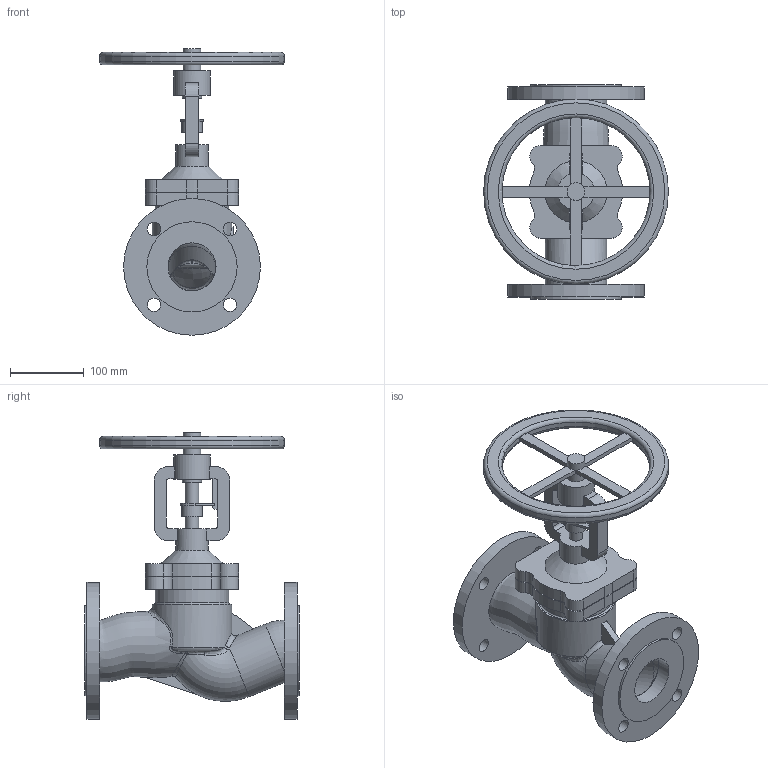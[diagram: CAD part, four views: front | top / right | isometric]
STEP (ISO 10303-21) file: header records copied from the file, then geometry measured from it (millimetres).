
FILE_DESCRIPTION(('STEP AP203'), '1');
FILE_NAME('孰囡囗 玎镱痦 BV1F DN65', '', ('UNSPECIFIED'), ('UNSPECIFIED'), 'ASCON STEP Converter 1.6', 'ASCON Math Kernel', '');
FILE_SCHEMA(('CONFIG_CONTROL_DESIGN'));
Length unit declared in the file: millimetre
Bounding box: 250 x 290 x 387.5 mm (x, y, z)
Volume: 3183075.8 mm3; surface area: 420763.8 mm2
Topology: 1 solids, 2 shells, 224 faces, 610 edges, 409 vertices
Faces by surface type: plane 104, cylinder 73, bspline 32, torus 14, cone 1
Full cylindrical faces by diameter (mm): 18 x10, 24 x1, 26 x1, 28 x1, 44 x1, 50 x1, 65 x3, 83 x1, 99 x1, 108 x1, 116 x1, 122 x2, 185 x2, 200 x1, 250 x1
Entity records: 49141 total; most frequent: CARTESIAN_POINT 41890, ORIENTED_EDGE 1142, DIRECTION 1037, EDGE_CURVE 571, AXIS2_PLACEMENT_3D 413, VERTEX_POINT 409, EDGE_LOOP 310, FACE_BOUND 272
